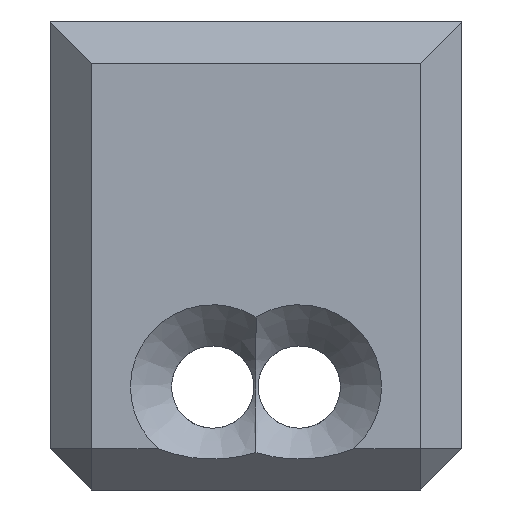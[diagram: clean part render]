
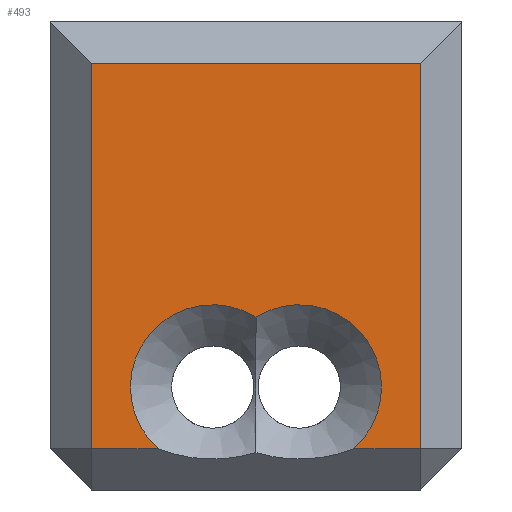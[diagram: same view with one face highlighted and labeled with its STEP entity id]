
A CAD part, left-side view. The second image highlights one B-rep face of the part: STEP entity #493.
In plain terms, the highlighted planar face has unit normal (-1, 0, 0).
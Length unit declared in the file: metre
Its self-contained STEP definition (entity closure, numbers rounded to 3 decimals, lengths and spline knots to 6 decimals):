
#37=CIRCLE('',#548,0.004);
#38=CIRCLE('',#549,0.004);
#99=ORIENTED_EDGE('',*,*,#222,.T.);
#100=ORIENTED_EDGE('',*,*,#223,.T.);
#101=ORIENTED_EDGE('',*,*,#224,.T.);
#102=ORIENTED_EDGE('',*,*,#225,.T.);
#103=ORIENTED_EDGE('',*,*,#226,.T.);
#104=ORIENTED_EDGE('',*,*,#227,.T.);
#105=ORIENTED_EDGE('',*,*,#228,.T.);
#222=EDGE_CURVE('',#282,#283,#323,.T.);
#223=EDGE_CURVE('',#283,#284,#324,.T.);
#224=EDGE_CURVE('',#284,#285,#325,.T.);
#225=EDGE_CURVE('',#285,#286,#326,.T.);
#226=EDGE_CURVE('',#286,#287,#37,.T.);
#227=EDGE_CURVE('',#287,#288,#38,.T.);
#228=EDGE_CURVE('',#288,#282,#327,.T.);
#282=VERTEX_POINT('',#806);
#283=VERTEX_POINT('',#807);
#284=VERTEX_POINT('',#809);
#285=VERTEX_POINT('',#811);
#286=VERTEX_POINT('',#813);
#287=VERTEX_POINT('',#815);
#288=VERTEX_POINT('',#817);
#323=LINE('',#805,#373);
#324=LINE('',#808,#374);
#325=LINE('',#810,#375);
#326=LINE('',#812,#376);
#327=LINE('',#818,#377);
#373=VECTOR('',#653,1.);
#374=VECTOR('',#654,1.);
#375=VECTOR('',#655,1.);
#376=VECTOR('',#656,1.);
#377=VECTOR('',#661,1.);
#406=EDGE_LOOP('',(#99,#100,#101,#102,#103,#104,#105));
#441=FACE_BOUND('',#406,.T.);
#468=PLANE('',#547);
#493=ADVANCED_FACE('',(#441),#468,.F.);
#547=AXIS2_PLACEMENT_3D('',#804,#651,#652);
#548=AXIS2_PLACEMENT_3D('',#814,#657,#658);
#549=AXIS2_PLACEMENT_3D('',#816,#659,#660);
#651=DIRECTION('',(1.,0.,0.));
#652=DIRECTION('',(0.,0.,-1.));
#653=DIRECTION('',(0.,0.,1.));
#654=DIRECTION('',(0.,1.,0.));
#655=DIRECTION('',(0.,0.,-1.));
#656=DIRECTION('',(0.,-1.,0.));
#657=DIRECTION('',(1.,0.,0.));
#658=DIRECTION('',(0.,0.,-1.));
#659=DIRECTION('',(1.,0.,0.));
#660=DIRECTION('',(0.,0.,-1.));
#661=DIRECTION('',(0.,-1.,0.));
#804=CARTESIAN_POINT('',(-0.055,0.,0.01));
#805=CARTESIAN_POINT('',(-0.055,-0.008,0.022734));
#806=CARTESIAN_POINT('',(-0.055,-0.008,0.002));
#807=CARTESIAN_POINT('',(-0.055,-0.008,0.020734));
#808=CARTESIAN_POINT('',(-0.055,0.01,0.020734));
#809=CARTESIAN_POINT('',(-0.055,0.008,0.020734));
#810=CARTESIAN_POINT('',(-0.055,0.008,0.01));
#811=CARTESIAN_POINT('',(-0.055,0.008,0.002));
#812=CARTESIAN_POINT('',(-0.055,0.,0.002));
#813=CARTESIAN_POINT('',(-0.055,0.004746,0.002));
#814=CARTESIAN_POINT('',(-0.055,0.0021,0.005));
#815=CARTESIAN_POINT('',(-0.055,0.,0.008404));
#816=CARTESIAN_POINT('',(-0.055,-0.0021,0.005));
#817=CARTESIAN_POINT('',(-0.055,-0.004746,0.002));
#818=CARTESIAN_POINT('',(-0.055,0.,0.002));
